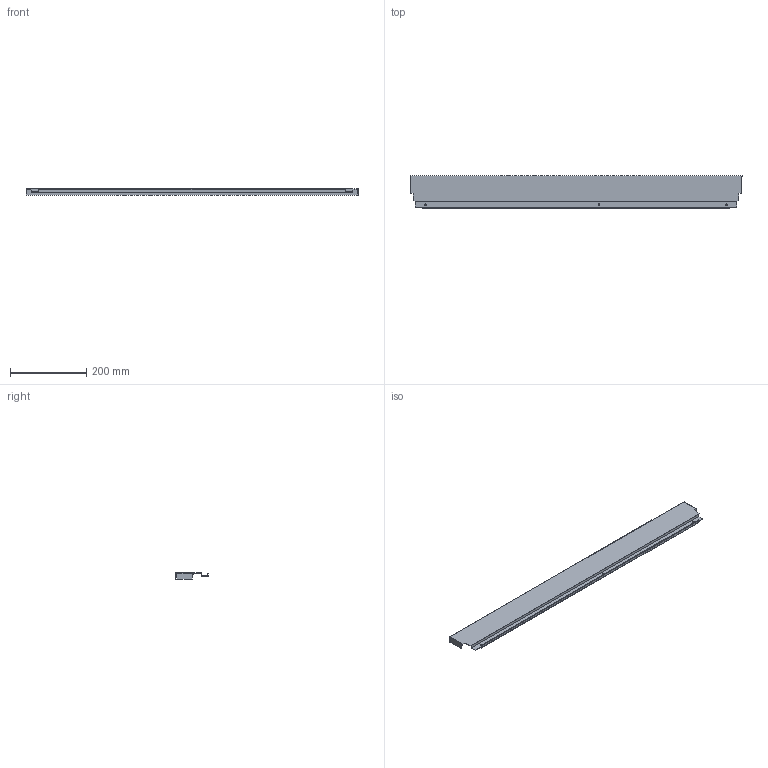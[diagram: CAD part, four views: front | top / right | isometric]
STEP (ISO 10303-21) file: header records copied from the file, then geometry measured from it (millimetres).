
FILE_DESCRIPTION (( 'STEP AP214' ), '1' );
FILE_NAME ('_DWD_XP Stahlrückwand_H86_KAB950_S16.step', '2010-07-08T12:10:01', ( 'grass' ), ( '' ), 'SwSTEP 2.0', 'SolidWorks 2010', '' );
FILE_SCHEMA (( 'AUTOMOTIVE_DESIGN' ));
Length unit declared in the file: millimetre
Products named in the file (1): _DWD_XP Stahlrückwand_H86_KAB950_S16
Bounding box: 869 x 85.79 x 16 mm (x, y, z)
Volume: 93193 mm3; surface area: 202216.3 mm2
Topology: 1 solids, 1 shells, 50 faces, 144 edges, 96 vertices
Faces by surface type: plane 44, cylinder 6
Entity records: 1666 total; most frequent: CARTESIAN_POINT 291, ORIENTED_EDGE 288, DIRECTION 258, EDGE_CURVE 144, LINE 132, VECTOR 132, VERTEX_POINT 96, AXIS2_PLACEMENT_3D 63
